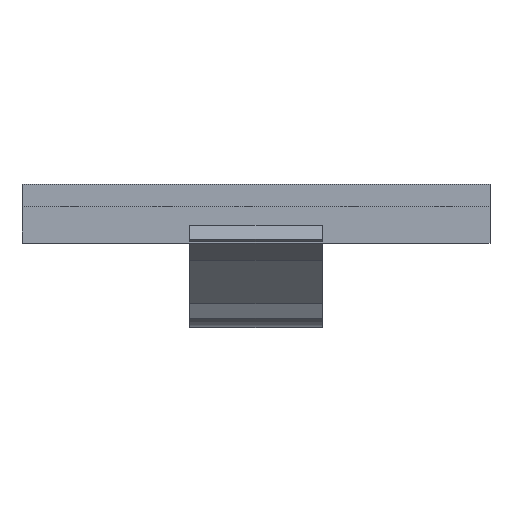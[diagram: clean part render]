
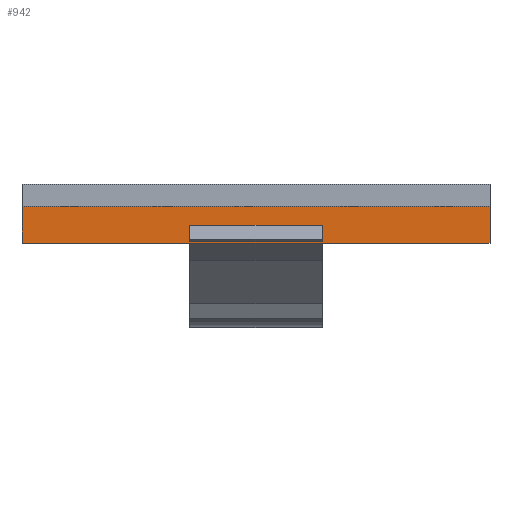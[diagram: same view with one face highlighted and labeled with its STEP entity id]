
A CAD part, left-side view. The second image highlights one B-rep face of the part: STEP entity #942.
In plain terms, the highlighted planar face has unit normal (-1, 0, 0).
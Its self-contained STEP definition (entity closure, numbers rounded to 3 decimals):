
#44 = PLANE('',#45);
#45 = AXIS2_PLACEMENT_3D('',#46,#47,#48);
#46 = CARTESIAN_POINT('',(-9.,-63.5,0.));
#47 = DIRECTION('',(0.,1.,0.));
#48 = DIRECTION('',(0.,0.,1.));
#72 = PLANE('',#73);
#73 = AXIS2_PLACEMENT_3D('',#74,#75,#76);
#74 = CARTESIAN_POINT('',(-9.,-63.5,0.));
#75 = DIRECTION('',(0.,0.,1.));
#76 = DIRECTION('',(1.,0.,0.));
#100 = PLANE('',#101);
#101 = AXIS2_PLACEMENT_3D('',#102,#103,#104);
#102 = CARTESIAN_POINT('',(-9.,63.5,0.));
#103 = DIRECTION('',(0.,1.,0.));
#104 = DIRECTION('',(0.,0.,1.));
#142 = VERTEX_POINT('',#143);
#143 = CARTESIAN_POINT('',(9.8,-63.5,0.));
#217 = VERTEX_POINT('',#218);
#218 = CARTESIAN_POINT('',(9.8,-63.5,-10.));
#232 = PLANE('',#233);
#233 = AXIS2_PLACEMENT_3D('',#234,#235,#236);
#234 = CARTESIAN_POINT('',(9.8,-63.5,-10.));
#235 = DIRECTION('',(0.,0.,1.));
#236 = DIRECTION('',(1.,0.,0.));
#244 = EDGE_CURVE('',#142,#217,#245,.T.);
#245 = SURFACE_CURVE('',#246,(#250,#257),.PCURVE_S1.);
#246 = LINE('',#247,#248);
#247 = CARTESIAN_POINT('',(9.8,-63.5,0.));
#248 = VECTOR('',#249,1.);
#249 = DIRECTION('',(0.,0.,-1.));
#250 = PCURVE('',#44,#251);
#251 = DEFINITIONAL_REPRESENTATION('',(#252),#256);
#252 = LINE('',#253,#254);
#253 = CARTESIAN_POINT('',(0.,18.8));
#254 = VECTOR('',#255,1.);
#255 = DIRECTION('',(-1.,0.));
#256 = ( GEOMETRIC_REPRESENTATION_CONTEXT(2) 
PARAMETRIC_REPRESENTATION_CONTEXT() REPRESENTATION_CONTEXT('2D SPACE',''
  ) );
#257 = PCURVE('',#258,#263);
#258 = PLANE('',#259);
#259 = AXIS2_PLACEMENT_3D('',#260,#261,#262);
#260 = CARTESIAN_POINT('',(9.8,-63.5,-7.));
#261 = DIRECTION('',(1.,0.,0.));
#262 = DIRECTION('',(0.,0.,1.));
#263 = DEFINITIONAL_REPRESENTATION('',(#264),#268);
#264 = LINE('',#265,#266);
#265 = CARTESIAN_POINT('',(7.,0.));
#266 = VECTOR('',#267,1.);
#267 = DIRECTION('',(-1.,0.));
#268 = ( GEOMETRIC_REPRESENTATION_CONTEXT(2) 
PARAMETRIC_REPRESENTATION_CONTEXT() REPRESENTATION_CONTEXT('2D SPACE',''
  ) );
#463 = VERTEX_POINT('',#464);
#464 = CARTESIAN_POINT('',(9.8,63.5,0.));
#511 = VERTEX_POINT('',#512);
#512 = CARTESIAN_POINT('',(9.8,63.5,-10.));
#533 = EDGE_CURVE('',#511,#463,#534,.T.);
#534 = SURFACE_CURVE('',#535,(#539,#546),.PCURVE_S1.);
#535 = LINE('',#536,#537);
#536 = CARTESIAN_POINT('',(9.8,63.5,-10.));
#537 = VECTOR('',#538,1.);
#538 = DIRECTION('',(0.,0.,1.));
#539 = PCURVE('',#100,#540);
#540 = DEFINITIONAL_REPRESENTATION('',(#541),#545);
#541 = LINE('',#542,#543);
#542 = CARTESIAN_POINT('',(-10.,18.8));
#543 = VECTOR('',#544,1.);
#544 = DIRECTION('',(1.,0.));
#545 = ( GEOMETRIC_REPRESENTATION_CONTEXT(2) 
PARAMETRIC_REPRESENTATION_CONTEXT() REPRESENTATION_CONTEXT('2D SPACE',''
  ) );
#546 = PCURVE('',#258,#547);
#547 = DEFINITIONAL_REPRESENTATION('',(#548),#552);
#548 = LINE('',#549,#550);
#549 = CARTESIAN_POINT('',(-3.,-127.));
#550 = VECTOR('',#551,1.);
#551 = DIRECTION('',(1.,0.));
#552 = ( GEOMETRIC_REPRESENTATION_CONTEXT(2) 
PARAMETRIC_REPRESENTATION_CONTEXT() REPRESENTATION_CONTEXT('2D SPACE',''
  ) );
#560 = EDGE_CURVE('',#142,#463,#561,.T.);
#561 = SURFACE_CURVE('',#562,(#566,#573),.PCURVE_S1.);
#562 = LINE('',#563,#564);
#563 = CARTESIAN_POINT('',(9.8,-63.5,0.));
#564 = VECTOR('',#565,1.);
#565 = DIRECTION('',(0.,1.,0.));
#566 = PCURVE('',#72,#567);
#567 = DEFINITIONAL_REPRESENTATION('',(#568),#572);
#568 = LINE('',#569,#570);
#569 = CARTESIAN_POINT('',(18.8,0.));
#570 = VECTOR('',#571,1.);
#571 = DIRECTION('',(0.,1.));
#572 = ( GEOMETRIC_REPRESENTATION_CONTEXT(2) 
PARAMETRIC_REPRESENTATION_CONTEXT() REPRESENTATION_CONTEXT('2D SPACE',''
  ) );
#573 = PCURVE('',#258,#574);
#574 = DEFINITIONAL_REPRESENTATION('',(#575),#579);
#575 = LINE('',#576,#577);
#576 = CARTESIAN_POINT('',(7.,0.));
#577 = VECTOR('',#578,1.);
#578 = DIRECTION('',(0.,-1.));
#579 = ( GEOMETRIC_REPRESENTATION_CONTEXT(2) 
PARAMETRIC_REPRESENTATION_CONTEXT() REPRESENTATION_CONTEXT('2D SPACE',''
  ) );
#853 = EDGE_CURVE('',#217,#511,#854,.T.);
#854 = SURFACE_CURVE('',#855,(#859,#866),.PCURVE_S1.);
#855 = LINE('',#856,#857);
#856 = CARTESIAN_POINT('',(9.8,-63.5,-10.));
#857 = VECTOR('',#858,1.);
#858 = DIRECTION('',(0.,1.,0.));
#859 = PCURVE('',#232,#860);
#860 = DEFINITIONAL_REPRESENTATION('',(#861),#865);
#861 = LINE('',#862,#863);
#862 = CARTESIAN_POINT('',(0.,0.));
#863 = VECTOR('',#864,1.);
#864 = DIRECTION('',(0.,1.));
#865 = ( GEOMETRIC_REPRESENTATION_CONTEXT(2) 
PARAMETRIC_REPRESENTATION_CONTEXT() REPRESENTATION_CONTEXT('2D SPACE',''
  ) );
#866 = PCURVE('',#258,#867);
#867 = DEFINITIONAL_REPRESENTATION('',(#868),#872);
#868 = LINE('',#869,#870);
#869 = CARTESIAN_POINT('',(-3.,0.));
#870 = VECTOR('',#871,1.);
#871 = DIRECTION('',(0.,-1.));
#872 = ( GEOMETRIC_REPRESENTATION_CONTEXT(2) 
PARAMETRIC_REPRESENTATION_CONTEXT() REPRESENTATION_CONTEXT('2D SPACE',''
  ) );
#942 = ADVANCED_FACE('',(#943,#949),#258,.F.);
#943 = FACE_BOUND('',#944,.F.);
#944 = EDGE_LOOP('',(#945,#946,#947,#948));
#945 = ORIENTED_EDGE('',*,*,#244,.T.);
#946 = ORIENTED_EDGE('',*,*,#853,.T.);
#947 = ORIENTED_EDGE('',*,*,#533,.T.);
#948 = ORIENTED_EDGE('',*,*,#560,.F.);
#949 = FACE_BOUND('',#950,.F.);
#950 = EDGE_LOOP('',(#951,#979,#1005,#1031));
#951 = ORIENTED_EDGE('',*,*,#952,.F.);
#952 = EDGE_CURVE('',#953,#955,#957,.T.);
#953 = VERTEX_POINT('',#954);
#954 = CARTESIAN_POINT('',(9.8,18.,-5.139));
#955 = VERTEX_POINT('',#956);
#956 = CARTESIAN_POINT('',(9.8,-18.,-5.139));
#957 = SURFACE_CURVE('',#958,(#962,#968),.PCURVE_S1.);
#958 = LINE('',#959,#960);
#959 = CARTESIAN_POINT('',(9.8,-22.75,-5.139));
#960 = VECTOR('',#961,1.);
#961 = DIRECTION('',(0.,-1.,0.));
#962 = PCURVE('',#258,#963);
#963 = DEFINITIONAL_REPRESENTATION('',(#964),#967);
#964 = B_SPLINE_CURVE_WITH_KNOTS('',1,(#965,#966),.UNSPECIFIED.,.F.,.F.,
  (2,2),(-40.75,-4.75),.PIECEWISE_BEZIER_KNOTS.);
#965 = CARTESIAN_POINT('',(1.861,-81.5));
#966 = CARTESIAN_POINT('',(1.861,-45.5));
#967 = ( GEOMETRIC_REPRESENTATION_CONTEXT(2) 
PARAMETRIC_REPRESENTATION_CONTEXT() REPRESENTATION_CONTEXT('2D SPACE',''
  ) );
#968 = PCURVE('',#969,#974);
#969 = PLANE('',#970);
#970 = AXIS2_PLACEMENT_3D('',#971,#972,#973);
#971 = CARTESIAN_POINT('',(8.955,18.,-8.95));
#972 = DIRECTION('',(-0.976,0.,0.216));
#973 = DIRECTION('',(0.216,0.,0.976));
#974 = DEFINITIONAL_REPRESENTATION('',(#975),#978);
#975 = B_SPLINE_CURVE_WITH_KNOTS('',1,(#976,#977),.UNSPECIFIED.,.F.,.F.,
  (2,2),(-40.75,-4.75),.PIECEWISE_BEZIER_KNOTS.);
#976 = CARTESIAN_POINT('',(3.904,0.));
#977 = CARTESIAN_POINT('',(3.904,-36.));
#978 = ( GEOMETRIC_REPRESENTATION_CONTEXT(2) 
PARAMETRIC_REPRESENTATION_CONTEXT() REPRESENTATION_CONTEXT('2D SPACE',''
  ) );
#979 = ORIENTED_EDGE('',*,*,#980,.F.);
#980 = EDGE_CURVE('',#981,#953,#983,.T.);
#981 = VERTEX_POINT('',#982);
#982 = CARTESIAN_POINT('',(9.8,18.,-9.651));
#983 = SURFACE_CURVE('',#984,(#988,#994),.PCURVE_S1.);
#984 = LINE('',#985,#986);
#985 = CARTESIAN_POINT('',(9.8,18.,-12.122));
#986 = VECTOR('',#987,1.);
#987 = DIRECTION('',(0.,0.,1.));
#988 = PCURVE('',#258,#989);
#989 = DEFINITIONAL_REPRESENTATION('',(#990),#993);
#990 = B_SPLINE_CURVE_WITH_KNOTS('',1,(#991,#992),.UNSPECIFIED.,.F.,.F.,
  (2,2),(2.122,6.983),.PIECEWISE_BEZIER_KNOTS.);
#991 = CARTESIAN_POINT('',(-3.,-81.5));
#992 = CARTESIAN_POINT('',(1.861,-81.5));
#993 = ( GEOMETRIC_REPRESENTATION_CONTEXT(2) 
PARAMETRIC_REPRESENTATION_CONTEXT() REPRESENTATION_CONTEXT('2D SPACE',''
  ) );
#994 = PCURVE('',#995,#1000);
#995 = PLANE('',#996);
#996 = AXIS2_PLACEMENT_3D('',#997,#998,#999);
#997 = CARTESIAN_POINT('',(40.298,18.,-17.243));
#998 = DIRECTION('',(0.,1.,0.));
#999 = DIRECTION('',(0.216,0.,0.976));
#1000 = DEFINITIONAL_REPRESENTATION('',(#1001),#1004);
#1001 = B_SPLINE_CURVE_WITH_KNOTS('',1,(#1002,#1003),.UNSPECIFIED.,.F.,
  .F.,(2,2),(2.122,6.983),.PIECEWISE_BEZIER_KNOTS.);
#1002 = CARTESIAN_POINT('',(0.471,-31.342));
#1003 = CARTESIAN_POINT('',(5.216,-32.395));
#1004 = ( GEOMETRIC_REPRESENTATION_CONTEXT(2) 
PARAMETRIC_REPRESENTATION_CONTEXT() REPRESENTATION_CONTEXT('2D SPACE',''
  ) );
#1005 = ORIENTED_EDGE('',*,*,#1006,.F.);
#1006 = EDGE_CURVE('',#1007,#981,#1009,.T.);
#1007 = VERTEX_POINT('',#1008);
#1008 = CARTESIAN_POINT('',(9.8,-18.,-9.651));
#1009 = SURFACE_CURVE('',#1010,(#1014,#1020),.PCURVE_S1.);
#1010 = LINE('',#1011,#1012);
#1011 = CARTESIAN_POINT('',(9.8,-22.75,-9.651));
#1012 = VECTOR('',#1013,1.);
#1013 = DIRECTION('',(-0.,1.,0.));
#1014 = PCURVE('',#258,#1015);
#1015 = DEFINITIONAL_REPRESENTATION('',(#1016),#1019);
#1016 = B_SPLINE_CURVE_WITH_KNOTS('',1,(#1017,#1018),.UNSPECIFIED.,.F.,
  .F.,(2,2),(4.75,40.75),.PIECEWISE_BEZIER_KNOTS.);
#1017 = CARTESIAN_POINT('',(-2.651,-45.5));
#1018 = CARTESIAN_POINT('',(-2.651,-81.5));
#1019 = ( GEOMETRIC_REPRESENTATION_CONTEXT(2) 
PARAMETRIC_REPRESENTATION_CONTEXT() REPRESENTATION_CONTEXT('2D SPACE',''
  ) );
#1020 = PCURVE('',#1021,#1026);
#1021 = PLANE('',#1022);
#1022 = AXIS2_PLACEMENT_3D('',#1023,#1024,#1025);
#1023 = CARTESIAN_POINT('',(15.704,18.,-14.544));
#1024 = DIRECTION('',(-0.638,0.,-0.77));
#1025 = DIRECTION('',(-0.77,0.,0.638));
#1026 = DEFINITIONAL_REPRESENTATION('',(#1027),#1030);
#1027 = B_SPLINE_CURVE_WITH_KNOTS('',1,(#1028,#1029),.UNSPECIFIED.,.F.,
  .F.,(2,2),(4.75,40.75),.PIECEWISE_BEZIER_KNOTS.);
#1028 = CARTESIAN_POINT('',(7.668,-36.));
#1029 = CARTESIAN_POINT('',(7.668,0.));
#1030 = ( GEOMETRIC_REPRESENTATION_CONTEXT(2) 
PARAMETRIC_REPRESENTATION_CONTEXT() REPRESENTATION_CONTEXT('2D SPACE',''
  ) );
#1031 = ORIENTED_EDGE('',*,*,#1032,.T.);
#1032 = EDGE_CURVE('',#1007,#955,#1033,.T.);
#1033 = SURFACE_CURVE('',#1034,(#1038,#1044),.PCURVE_S1.);
#1034 = LINE('',#1035,#1036);
#1035 = CARTESIAN_POINT('',(9.8,-18.,-12.122));
#1036 = VECTOR('',#1037,1.);
#1037 = DIRECTION('',(0.,0.,1.));
#1038 = PCURVE('',#258,#1039);
#1039 = DEFINITIONAL_REPRESENTATION('',(#1040),#1043);
#1040 = B_SPLINE_CURVE_WITH_KNOTS('',1,(#1041,#1042),.UNSPECIFIED.,.F.,
  .F.,(2,2),(2.122,6.983),.PIECEWISE_BEZIER_KNOTS.);
#1041 = CARTESIAN_POINT('',(-3.,-45.5));
#1042 = CARTESIAN_POINT('',(1.861,-45.5));
#1043 = ( GEOMETRIC_REPRESENTATION_CONTEXT(2) 
PARAMETRIC_REPRESENTATION_CONTEXT() REPRESENTATION_CONTEXT('2D SPACE',''
  ) );
#1044 = PCURVE('',#1045,#1050);
#1045 = PLANE('',#1046);
#1046 = AXIS2_PLACEMENT_3D('',#1047,#1048,#1049);
#1047 = CARTESIAN_POINT('',(40.298,-18.,-17.243));
#1048 = DIRECTION('',(0.,1.,0.));
#1049 = DIRECTION('',(0.216,0.,0.976));
#1050 = DEFINITIONAL_REPRESENTATION('',(#1051),#1054);
#1051 = B_SPLINE_CURVE_WITH_KNOTS('',1,(#1052,#1053),.UNSPECIFIED.,.F.,
  .F.,(2,2),(2.122,6.983),.PIECEWISE_BEZIER_KNOTS.);
#1052 = CARTESIAN_POINT('',(0.471,-31.342));
#1053 = CARTESIAN_POINT('',(5.216,-32.395));
#1054 = ( GEOMETRIC_REPRESENTATION_CONTEXT(2) 
PARAMETRIC_REPRESENTATION_CONTEXT() REPRESENTATION_CONTEXT('2D SPACE',''
  ) );
